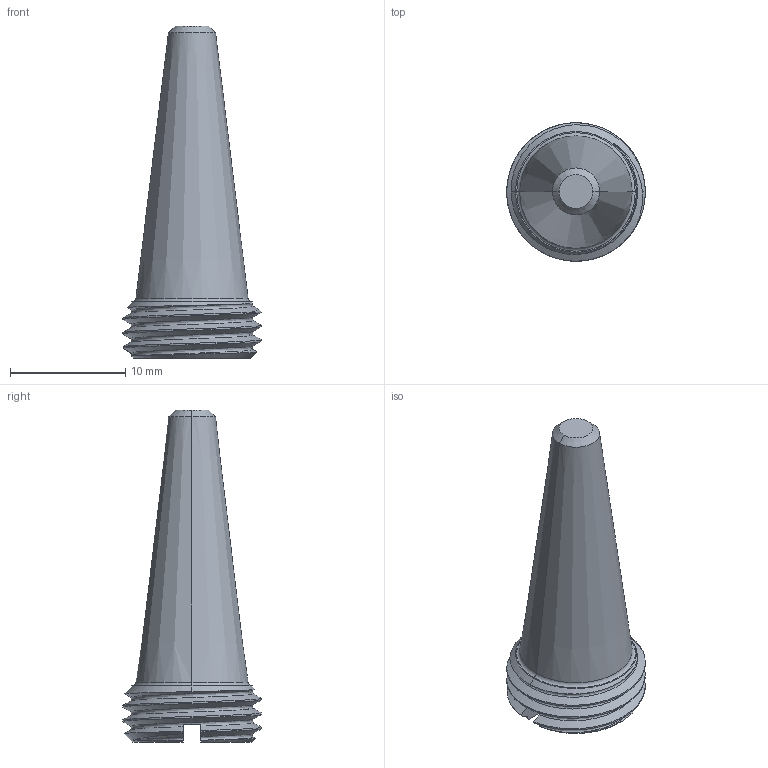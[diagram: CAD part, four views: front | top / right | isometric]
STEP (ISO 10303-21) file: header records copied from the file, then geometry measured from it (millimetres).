
FILE_DESCRIPTION (( 'STEP AP214' ), '1' );
FILE_NAME ('3DFSHB1203200M.STEP', '2021-03-31T18:17:41', ( '' ), ( '' ), 'SwSTEP 2.0', 'SolidWorks 2019', '' );
FILE_SCHEMA (( 'AUTOMOTIVE_DESIGN' ));
Length unit declared in the file: inch
Products named in the file (1): 3DFSHB1203200M
Bounding box: 12 x 12 x 28.75 mm (x, y, z)
Volume: 1379.4 mm3; surface area: 921 mm2
Topology: 1 solids, 1 shells, 229 faces, 613 edges, 407 vertices
Faces by surface type: plane 124, bspline 86, cone 10, cylinder 7, torus 2
Entity records: 18865 total; most frequent: CARTESIAN_POINT 11280, ORIENTED_EDGE 1226, DIRECTION 716, EDGE_CURVE 613, VERTEX_POINT 407, VECTOR 388, LINE 388, EDGE_LOOP 250
